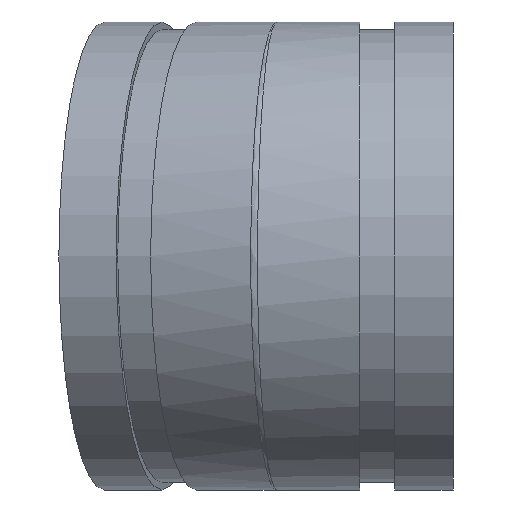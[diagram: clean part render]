
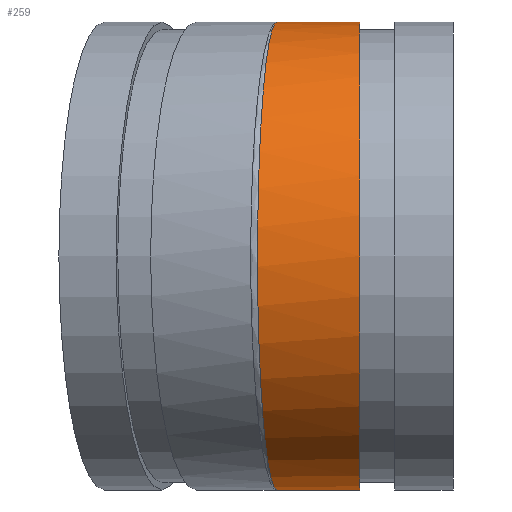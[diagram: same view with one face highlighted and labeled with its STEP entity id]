
A CAD part, left-side view. The second image highlights one B-rep face of the part: STEP entity #259.
In plain terms, the highlighted cylindrical face has radius 63.5 mm (diameter 127 mm), a full revolution.
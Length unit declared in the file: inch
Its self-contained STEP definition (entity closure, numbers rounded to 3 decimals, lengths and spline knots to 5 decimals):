
#27=LINE('',#525,#35);
#35=VECTOR('',#364,2.5);
#43=CIRCLE('',#299,2.5);
#59=CYLINDRICAL_SURFACE('',#305,2.5);
#71=FACE_OUTER_BOUND('',#89,.T.);
#89=EDGE_LOOP('',(#187,#188,#189,#190,#191,#192));
#106=ELLIPSE('',#292,2.51599,2.5);
#107=ELLIPSE('',#293,2.51599,2.5);
#109=ELLIPSE('',#297,2.50875,2.5);
#113=VERTEX_POINT('',#458);
#115=VERTEX_POINT('',#461);
#116=VERTEX_POINT('',#463);
#118=VERTEX_POINT('',#513);
#138=EDGE_CURVE('',#115,#116,#106,.T.);
#139=EDGE_CURVE('',#116,#113,#107,.T.);
#143=EDGE_CURVE('',#113,#115,#109,.T.);
#144=EDGE_CURVE('',#118,#118,#43,.T.);
#149=EDGE_CURVE('',#116,#118,#27,.T.);
#187=ORIENTED_EDGE('',*,*,#138,.F.);
#188=ORIENTED_EDGE('',*,*,#143,.F.);
#189=ORIENTED_EDGE('',*,*,#139,.F.);
#190=ORIENTED_EDGE('',*,*,#149,.T.);
#191=ORIENTED_EDGE('',*,*,#144,.F.);
#192=ORIENTED_EDGE('',*,*,#149,.F.);
#259=ADVANCED_FACE('',(#71),#59,.T.);
#292=AXIS2_PLACEMENT_3D('',#464,#335,#336);
#293=AXIS2_PLACEMENT_3D('',#465,#337,#338);
#297=AXIS2_PLACEMENT_3D('',#511,#346,#347);
#299=AXIS2_PLACEMENT_3D('',#514,#350,#351);
#305=AXIS2_PLACEMENT_3D('',#524,#362,#363);
#335=DIRECTION('center_axis',(0.113,0.994,0.));
#336=DIRECTION('ref_axis',(0.994,-0.113,0.));
#337=DIRECTION('center_axis',(0.113,0.994,0.));
#338=DIRECTION('ref_axis',(0.994,-0.113,0.));
#346=DIRECTION('center_axis',(0.083,0.997,0.));
#347=DIRECTION('ref_axis',(-0.997,0.083,0.));
#350=DIRECTION('center_axis',(0.,-1.,0.));
#351=DIRECTION('ref_axis',(-1.,0.,0.));
#362=DIRECTION('center_axis',(0.,1.,0.));
#363=DIRECTION('ref_axis',(-1.,0.,0.));
#364=DIRECTION('',(0.,-1.,0.));
#458=CARTESIAN_POINT('',(0.,1.88,-2.5));
#461=CARTESIAN_POINT('',(0.,1.88,2.5));
#463=CARTESIAN_POINT('',(2.5,1.59684,0.));
#464=CARTESIAN_POINT('Origin',(0.,1.88,0.));
#465=CARTESIAN_POINT('Origin',(0.,1.88,0.));
#511=CARTESIAN_POINT('Origin',(0.,1.88,0.));
#513=CARTESIAN_POINT('',(2.5,1.,0.));
#514=CARTESIAN_POINT('Origin',(0.,1.,0.));
#524=CARTESIAN_POINT('Origin',(0.,1.,0.));
#525=CARTESIAN_POINT('',(2.5,1.,0.));
